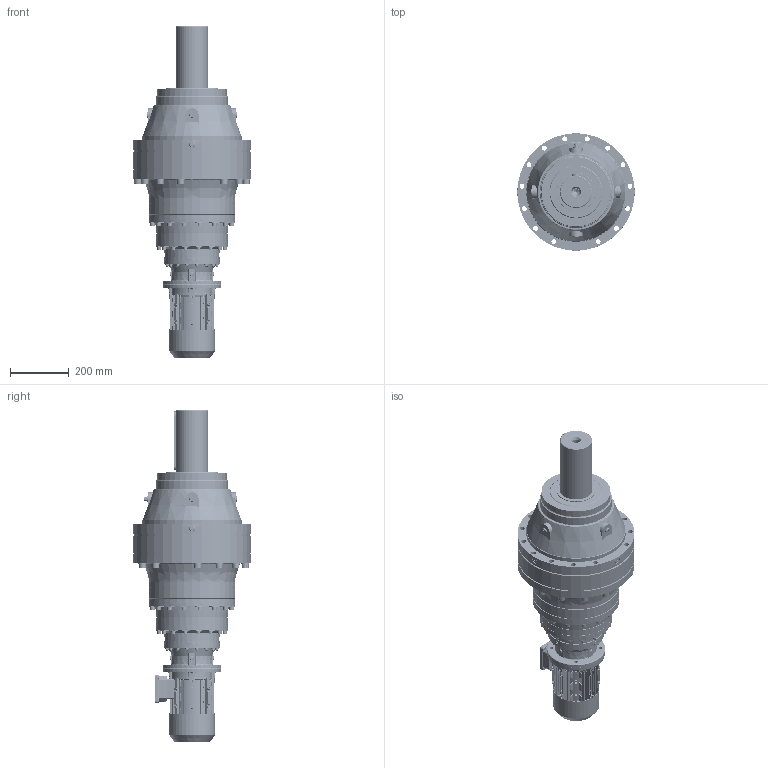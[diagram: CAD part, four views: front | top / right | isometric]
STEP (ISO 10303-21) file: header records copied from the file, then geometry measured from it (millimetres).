
FILE_DESCRIPTION (( 'STEP AP203' ), '1' );
FILE_NAME ('PVL_2704L-80-4.STEP', '2019-05-10T07:58:20', ( '' ), ( '' ), 'SwSTEP 2.0', 'SolidWorks 2012', '' );
FILE_SCHEMA (( 'CONFIG_CONTROL_DESIGN' ));
Products named in the file (18): PVL_2704L-80-4; Flansch-80_IMB5; MX3-80_B5; IE 3 80 Plug; IE3 80 Gasket for T-box(base); IE3 80 Cable glands; IE3 80 terminal box cover; IE3 80 Teriminal box base; IE3 80 Shield; IE3 80 Shaft; IE3 80 Casing; IE3 80 Fan cover; PNL_2704L_0_0_A08_B5_ML43A_FL12A_0_0_0_0_0_0_0_0_0_0_0_M1; FL12A_Varsayìlan; EK2704L_Varsayìlan; 1180B5_Varsayìlan; P27_Varsayìlan; ML43A_Varsayìlan
Assembly tree (17 placements, depth 3):
  PVL_2704L-80-4
    PNL_2704L_0_0_A08_B5_ML43A_FL12A_0_0_0_0_0_0_0_0_0_0_0_M1
      P27_Varsayìlan
      1180B5_Varsayìlan
      ML43A_Varsayìlan
      EK2704L_Varsayìlan
      FL12A_Varsayìlan
    MX3-80_B5
      IE3 80 Casing
      IE3 80 Shield
      IE3 80 Shaft
      IE3 80 Fan cover
      IE3 80 Teriminal box base
      IE3 80 Gasket for T-box(base)
      IE3 80 terminal box cover
      IE3 80 Cable glands
      Flansch-80_IMB5
      IE 3 80 Plug
Bounding box: 400 x 400 x 1131.6 mm (x, y, z)
Volume: 47738044.8 mm3; surface area: 2311167.6 mm2
Topology: 23 solids, 23 shells, 7271 faces, 18784 edges, 11563 vertices
Faces by surface type: plane 2501, cylinder 2158, bspline 1676, cone 575, torus 249, sphere 112
Entity records: 283323 total; most frequent: CARTESIAN_POINT 116281, ORIENTED_EDGE 37038, DIRECTION 31729, EDGE_CURVE 18519, AXIS2_PLACEMENT_3D 12161, VERTEX_POINT 11547, EDGE_LOOP 7958, LINE 7407
